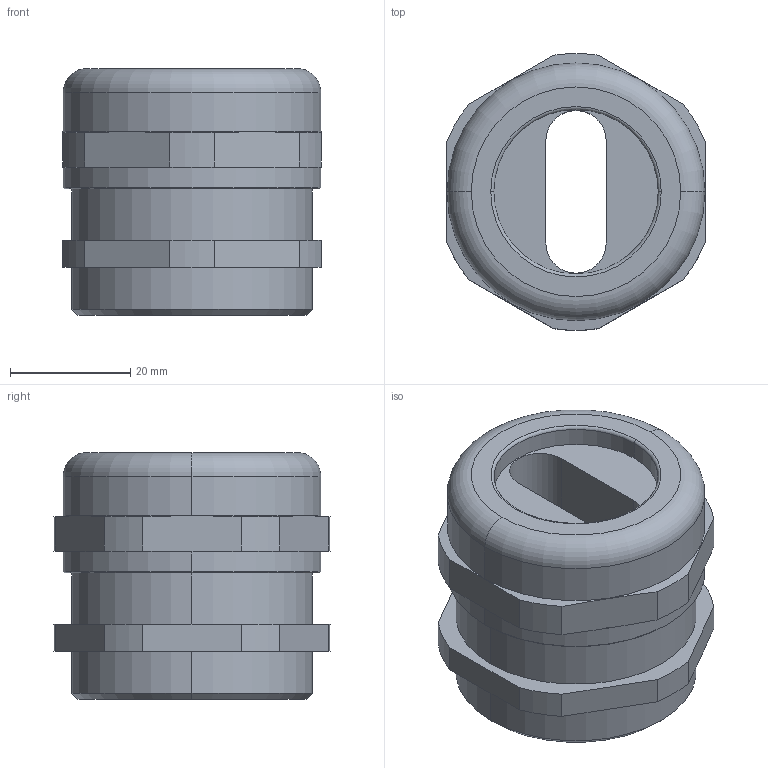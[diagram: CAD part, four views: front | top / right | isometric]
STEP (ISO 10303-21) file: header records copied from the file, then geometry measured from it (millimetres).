
FILE_DESCRIPTION (( 'STEP AP203' ), '1' );
FILE_NAME ('50.640 MFK1.STEP', '2005-11-02T08:37:35', ( ' ' ), ( '' ), 'SwSTEP 2.0', 'SolidWorks 2005278', '' );
FILE_SCHEMA (( 'CONFIG_CONTROL_DESIGN' ));
Length unit declared in the file: millimetre
Products named in the file (1): 50.640 MFK1
Bounding box: 43 x 45.93 x 41 mm (x, y, z)
Volume: 37622.9 mm3; surface area: 11552.7 mm2
Topology: 1 solids, 1 shells, 96 faces, 246 edges, 160 vertices
Faces by surface type: plane 58, cylinder 26, cone 8, torus 4
Entity records: 3003 total; most frequent: CARTESIAN_POINT 559, ORIENTED_EDGE 492, DIRECTION 488, EDGE_CURVE 246, LINE 166, VECTOR 166, AXIS2_PLACEMENT_3D 161, VERTEX_POINT 160
